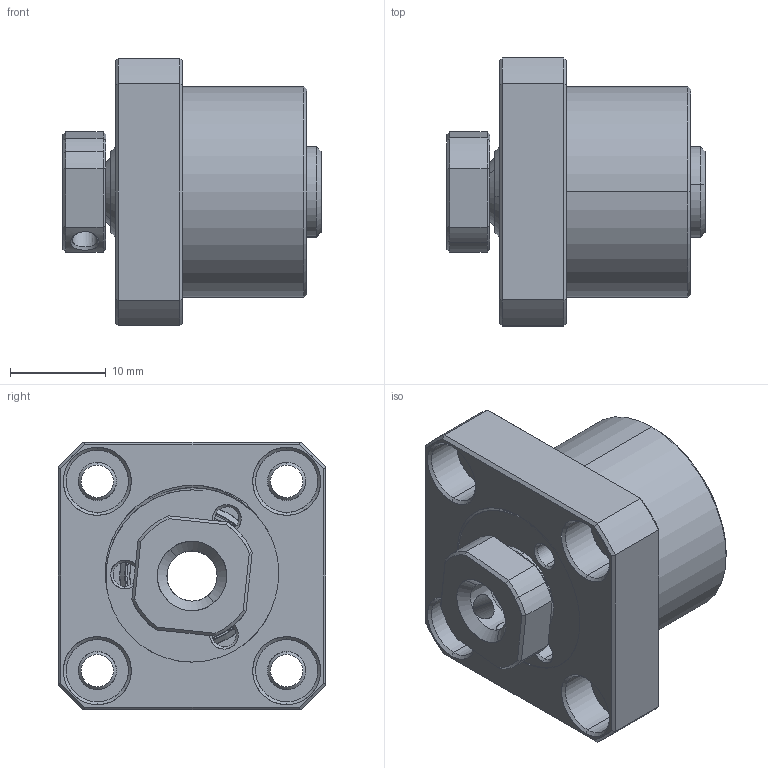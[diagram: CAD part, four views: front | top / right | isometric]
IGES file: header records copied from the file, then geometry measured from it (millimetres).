
Start section: SolidWorks IGES file using analytic representation for surfaces
Bounding box: 27 x 28 x 28 mm (x, y, z)
Surface area: 5364 mm2 (no closed solid volume)
Topology: 0 solids, 0 shells, 170 faces, 2227 edges, 2226 vertices
Faces by surface type: revolution 121, bspline 49
